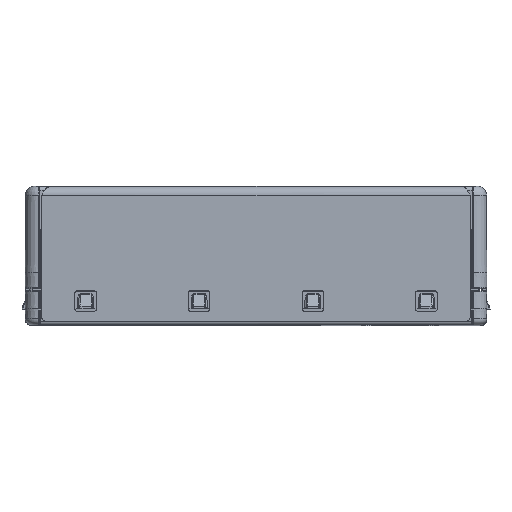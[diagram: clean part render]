
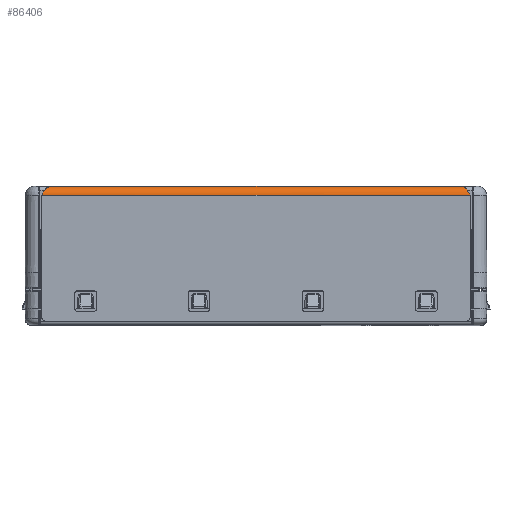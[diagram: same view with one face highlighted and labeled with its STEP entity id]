
A CAD part, top view. The second image highlights one B-rep face of the part: STEP entity #86406.
In plain terms, the highlighted cylindrical face has radius 0.8 mm (diameter 1.6 mm), a partial arc.
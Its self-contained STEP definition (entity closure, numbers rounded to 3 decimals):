
#1154 = EDGE_CURVE ( 'NONE', #33952, #60143, #14937, .T. ) ;
#1548 = ORIENTED_EDGE ( 'NONE', *, *, #81688, .F. ) ;
#3012 = ORIENTED_EDGE ( 'NONE', *, *, #28091, .T. ) ;
#6696 = CARTESIAN_POINT ( 'NONE',  ( -30.009, 6., 14.181 ) ) ;
#6703 = CARTESIAN_POINT ( 'NONE',  ( 6.859, 5.367, 14.856 ) ) ;
#9384 = CARTESIAN_POINT ( 'NONE',  ( -30.684, 5.367, 14.856 ) ) ;
#10083 = B_SPLINE_CURVE_WITH_KNOTS ( 'NONE', 3,
 ( #37175, #21513, #44816, #52518, #29069, #14833 ),
 .UNSPECIFIED., .F., .F.,
 ( 4, 2, 4 ),
 ( 0., 0.5, 1. ),
 .UNSPECIFIED. ) ;
#13096 = DIRECTION ( 'NONE',  ( 1., 0., 0. ) ) ;
#13154 = B_SPLINE_CURVE_WITH_KNOTS ( 'NONE', 3,
 ( #84303, #68219, #9384, #47743 ),
 .UNSPECIFIED., .F., .F.,
 ( 4, 4 ),
 ( 0., 1. ),
 .UNSPECIFIED. ) ;
#13590 = AXIS2_PLACEMENT_3D ( 'NONE', #14884, #77059, #69669 ) ;
#14833 = CARTESIAN_POINT ( 'NONE',  ( 6.082, 6., 14.056 ) ) ;
#14884 = CARTESIAN_POINT ( 'NONE',  ( -49.636, 5.2, 14.056 ) ) ;
#14937 = B_SPLINE_CURVE_WITH_KNOTS ( 'NONE', 3,
 ( #34110, #6703, #56743, #71849 ),
 .UNSPECIFIED., .F., .F.,
 ( 4, 4 ),
 ( 0., 1. ),
 .UNSPECIFIED. ) ;
#15772 = VERTEX_POINT ( 'NONE', #55423 ) ;
#19934 = VERTEX_POINT ( 'NONE', #40155 ) ;
#21513 = CARTESIAN_POINT ( 'NONE',  ( 6.592, 5.772, 14.629 ) ) ;
#21899 = EDGE_CURVE ( 'NONE', #15772, #44729, #73349, .T. ) ;
#22350 = CARTESIAN_POINT ( 'NONE',  ( 6.695, 5.67, 14.703 ) ) ;
#24016 = CARTESIAN_POINT ( 'NONE',  ( -30.52, 5.67, 14.703 ) ) ;
#24944 = CARTESIAN_POINT ( 'NONE',  ( -30.52, 5.67, 14.703 ) ) ;
#25670 = EDGE_CURVE ( 'NONE', #68840, #33952, #68792, .T. ) ;
#27050 = LINE ( 'NONE', #48677, #82124 ) ;
#28091 = EDGE_CURVE ( 'NONE', #44729, #68840, #13154, .T. ) ;
#29069 = CARTESIAN_POINT ( 'NONE',  ( 6.184, 6., 14.181 ) ) ;
#29706 = ORIENTED_EDGE ( 'NONE', *, *, #25670, .T. ) ;
#33952 = VERTEX_POINT ( 'NONE', #98622 ) ;
#34110 = CARTESIAN_POINT ( 'NONE',  ( 6.942, 5.2, 14.856 ) ) ;
#37175 = CARTESIAN_POINT ( 'NONE',  ( 6.695, 5.67, 14.703 ) ) ;
#38096 = CARTESIAN_POINT ( 'NONE',  ( -29.907, 6., 14.056 ) ) ;
#39132 = ORIENTED_EDGE ( 'NONE', *, *, #21899, .T. ) ;
#40155 = CARTESIAN_POINT ( 'NONE',  ( 6.082, 6., 14.056 ) ) ;
#42234 = EDGE_CURVE ( 'NONE', #60143, #19934, #10083, .T. ) ;
#44729 = VERTEX_POINT ( 'NONE', #24944 ) ;
#44816 = CARTESIAN_POINT ( 'NONE',  ( 6.49, 5.856, 14.531 ) ) ;
#47066 = CARTESIAN_POINT ( 'NONE',  ( -30.417, 5.772, 14.629 ) ) ;
#47743 = CARTESIAN_POINT ( 'NONE',  ( -30.767, 5.2, 14.856 ) ) ;
#47853 = CYLINDRICAL_SURFACE ( 'NONE', #13590, 0.8 ) ;
#48677 = CARTESIAN_POINT ( 'NONE',  ( -31.842, 6., 14.056 ) ) ;
#50802 = CARTESIAN_POINT ( 'NONE',  ( -11.913, 5.2, 14.856 ) ) ;
#51874 = EDGE_LOOP ( 'NONE', ( #90685, #1548, #39132, #3012, #29706, #98674 ) ) ;
#52518 = CARTESIAN_POINT ( 'NONE',  ( 6.286, 5.97, 14.307 ) ) ;
#53854 = CARTESIAN_POINT ( 'NONE',  ( -30.767, 5.2, 14.856 ) ) ;
#55423 = CARTESIAN_POINT ( 'NONE',  ( -29.907, 6., 14.056 ) ) ;
#56055 = DIRECTION ( 'NONE',  ( 1., 0., 0. ) ) ;
#56743 = CARTESIAN_POINT ( 'NONE',  ( 6.777, 5.535, 14.801 ) ) ;
#60143 = VERTEX_POINT ( 'NONE', #22350 ) ;
#61029 = FACE_OUTER_BOUND ( 'NONE', #51874, .T. ) ;
#67527 = CARTESIAN_POINT ( 'NONE',  ( -30.111, 5.97, 14.307 ) ) ;
#68219 = CARTESIAN_POINT ( 'NONE',  ( -30.602, 5.535, 14.801 ) ) ;
#68792 = LINE ( 'NONE', #50802, #93998 ) ;
#68840 = VERTEX_POINT ( 'NONE', #53854 ) ;
#69669 = DIRECTION ( 'NONE',  ( 0., 0., 1. ) ) ;
#71849 = CARTESIAN_POINT ( 'NONE',  ( 6.695, 5.67, 14.703 ) ) ;
#73349 = B_SPLINE_CURVE_WITH_KNOTS ( 'NONE', 3,
 ( #38096, #6696, #67527, #83301, #47066, #24016 ),
 .UNSPECIFIED., .F., .F.,
 ( 4, 2, 4 ),
 ( 0., 0.5, 1. ),
 .UNSPECIFIED. ) ;
#77059 = DIRECTION ( 'NONE',  ( 1., 0., 0. ) ) ;
#81688 = EDGE_CURVE ( 'NONE', #15772, #19934, #27050, .T. ) ;
#82124 = VECTOR ( 'NONE', #56055, 1000. ) ;
#83301 = CARTESIAN_POINT ( 'NONE',  ( -30.315, 5.856, 14.531 ) ) ;
#84303 = CARTESIAN_POINT ( 'NONE',  ( -30.52, 5.67, 14.703 ) ) ;
#86406 = ADVANCED_FACE ( 'NONE', ( #61029 ), #47853, .T. ) ;
#90685 = ORIENTED_EDGE ( 'NONE', *, *, #42234, .T. ) ;
#93998 = VECTOR ( 'NONE', #13096, 1000. ) ;
#98622 = CARTESIAN_POINT ( 'NONE',  ( 6.942, 5.2, 14.856 ) ) ;
#98674 = ORIENTED_EDGE ( 'NONE', *, *, #1154, .T. ) ;
